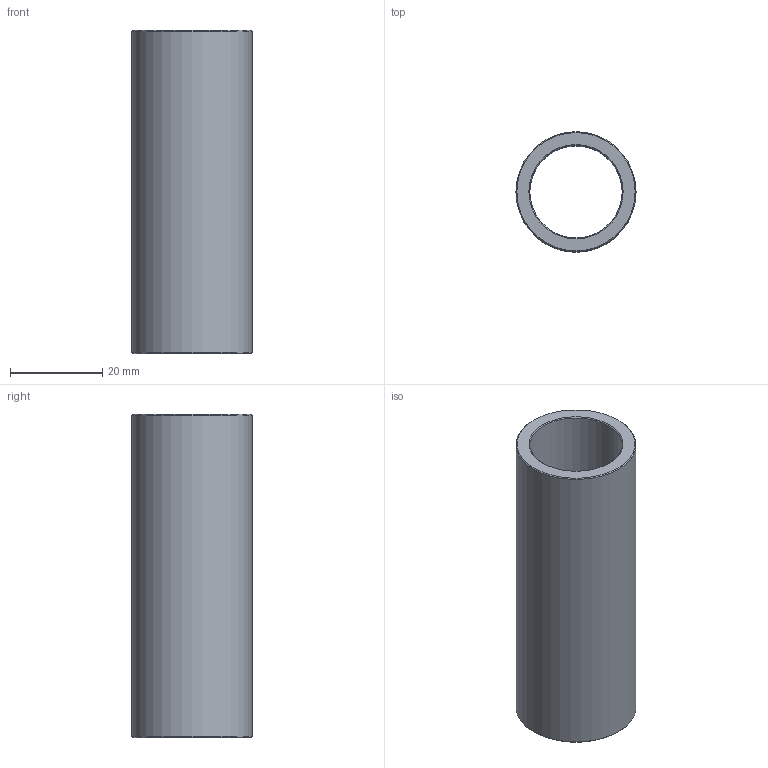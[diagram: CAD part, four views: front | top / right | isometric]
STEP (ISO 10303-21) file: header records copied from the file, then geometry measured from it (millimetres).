
FILE_DESCRIPTION(('STEP AP203'),'1');
FILE_NAME('C:/Users/Rodrigo/Desktop/GA3.020.070-1.step','2016-11-07T13:46:08',(' '),(' '),'Spatial InterOp 3D',' ',' ');
FILE_SCHEMA(('CONFIG_CONTROL_DESIGN'));
Length unit declared in the file: millimetre
Products named in the file (1): 1
Bounding box: 26 x 26 x 70 mm (x, y, z)
Volume: 15168.1 mm3; surface area: 10515.6 mm2
Topology: 1 solids, 1 shells, 8 faces, 14 edges, 8 vertices
Faces by surface type: cone 4, cylinder 2, plane 2
Full cylindrical faces by diameter (mm): 20 x1, 26 x1
Entity records: 212 total; most frequent: DIRECTION 34, CARTESIAN_POINT 25, AXIS2_PLACEMENT_3D 17, EDGE_LOOP 16, ORIENTED_EDGE 16, FACE_OUTER_BOUND 10, ADVANCED_FACE 8, EDGE_CURVE 8
